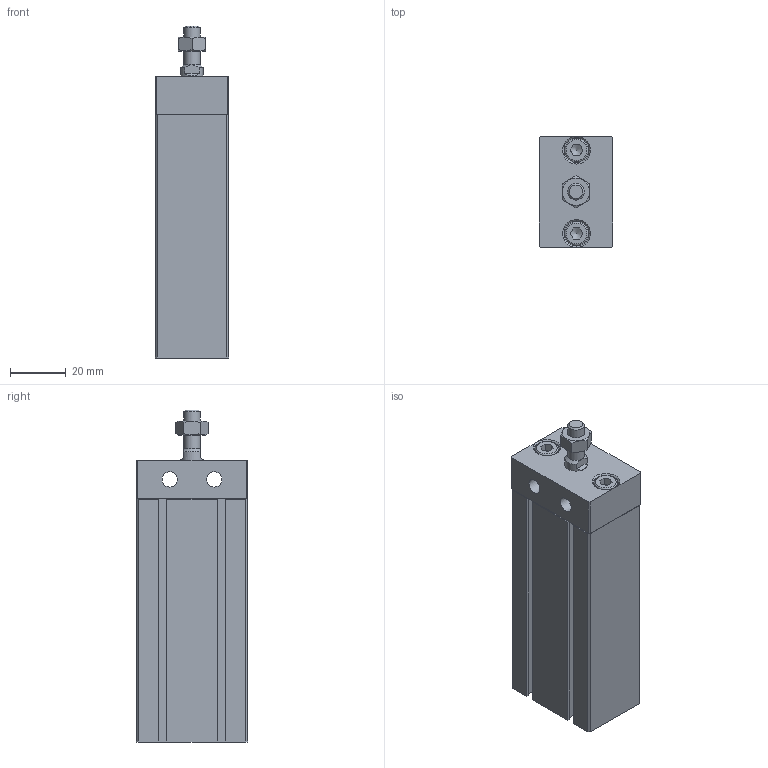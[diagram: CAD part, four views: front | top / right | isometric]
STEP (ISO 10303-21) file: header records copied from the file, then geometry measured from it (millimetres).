
FILE_DESCRIPTION((''),'2;1');
FILE_NAME('I:\3D電子目錄\氣缸\ND\ND\ND20-B\ND20x60-B.stp','2007-07-23T20:31:10',('Administrator'),(''),'Autodesk Inventor 11','Autodesk Inventor 11','');
FILE_SCHEMA(('AUTOMOTIVE_DESIGN { 1 0 10303 214 1 1 1 1 }'));
Length unit declared in the file: millimetre
Products named in the file (4): ND20-B; R 形環 22; ISO 4762 M5 x 12
Assembly tree (4 placements, depth 2):
  ND20-B
    ND20-B
    R 形環 22
    ISO 4762 M5 x 12  x2
Bounding box: 26.4 x 40.1 x 119.5 mm (x, y, z)
Volume: 97224 mm3; surface area: 24455.3 mm2
Topology: 5 solids, 5 shells, 170 faces, 420 edges, 269 vertices
Faces by surface type: plane 109, cylinder 28, cone 16, bspline 14, torus 3
Full cylindrical faces by diameter (mm): 1.5 x4, 5 x2, 5.5 x2, 6 x2, 8.5 x2, 9 x2, 13 x1, 21 x1
Entity records: 4613 total; most frequent: CARTESIAN_POINT 980, DIRECTION 710, ORIENTED_EDGE 692, EDGE_CURVE 346, VERTEX_POINT 244, VECTOR 238, LINE 238, AXIS2_PLACEMENT_3D 236
